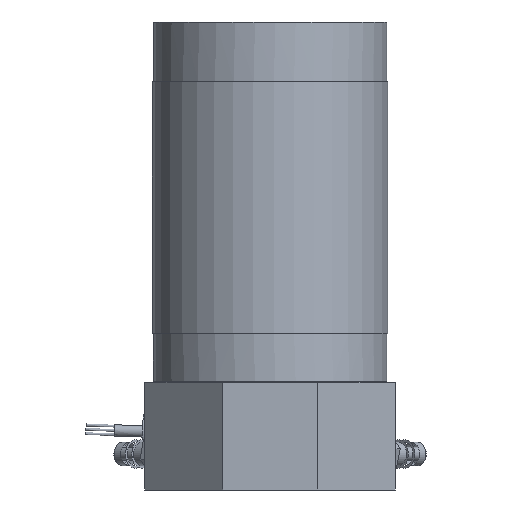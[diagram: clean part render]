
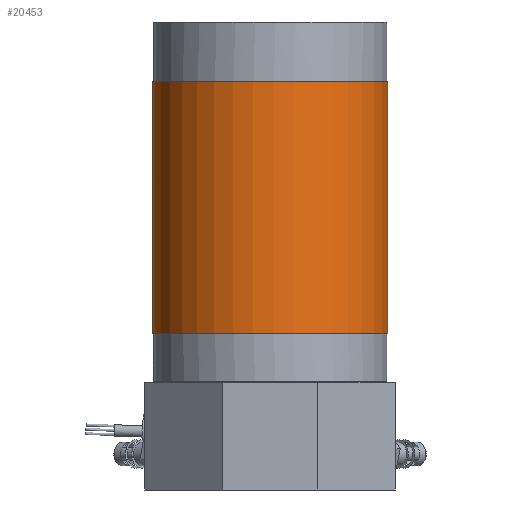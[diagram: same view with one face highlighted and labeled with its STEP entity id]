
A CAD part, left-side view. The second image highlights one B-rep face of the part: STEP entity #20453.
In plain terms, the highlighted cylindrical face has radius 20.765 mm (diameter 41.529 mm), a full revolution.
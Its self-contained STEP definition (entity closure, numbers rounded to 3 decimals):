
#3090=FACE_OUTER_BOUND('',#4291,.T.);
#4291=EDGE_LOOP('',(#18180,#18181,#18182,#18183));
#4743=CIRCLE('',#21712,20.765);
#4744=CIRCLE('',#21713,20.765);
#6217=LINE('',#94258,#7654);
#7654=VECTOR('',#25604,20.765);
#9575=VERTEX_POINT('',#94255);
#9576=VERTEX_POINT('',#94257);
#12445=EDGE_CURVE('',#9575,#9575,#4743,.T.);
#12446=EDGE_CURVE('',#9575,#9576,#6217,.T.);
#12447=EDGE_CURVE('',#9576,#9576,#4744,.T.);
#18180=ORIENTED_EDGE('',*,*,#12445,.T.);
#18181=ORIENTED_EDGE('',*,*,#12446,.T.);
#18182=ORIENTED_EDGE('',*,*,#12447,.F.);
#18183=ORIENTED_EDGE('',*,*,#12446,.F.);
#18341=CYLINDRICAL_SURFACE('',#21711,20.765);
#20453=ADVANCED_FACE('',(#3090),#18341,.T.);
#21711=AXIS2_PLACEMENT_3D('',#94254,#25600,#25601);
#21712=AXIS2_PLACEMENT_3D('',#94256,#25602,#25603);
#21713=AXIS2_PLACEMENT_3D('',#94259,#25605,#25606);
#25600=DIRECTION('center_axis',(0.,0.,
1.));
#25601=DIRECTION('ref_axis',(0.474,0.881,0.));
#25602=DIRECTION('center_axis',(0.,0.,
-1.));
#25603=DIRECTION('ref_axis',(0.474,0.881,0.));
#25604=DIRECTION('',(0.,0.,-1.));
#25605=DIRECTION('center_axis',(0.,0.,
-1.));
#25606=DIRECTION('ref_axis',(0.474,0.881,0.));
#94254=CARTESIAN_POINT('Origin',(-109.058,-120.55,77.93));
#94255=CARTESIAN_POINT('',(-118.898,-138.835,122.38));
#94256=CARTESIAN_POINT('Origin',(-109.058,-120.55,122.38));
#94257=CARTESIAN_POINT('',(-118.898,-138.835,77.93));
#94258=CARTESIAN_POINT('',(-118.898,-138.835,77.93));
#94259=CARTESIAN_POINT('Origin',(-109.058,-120.55,77.93));
